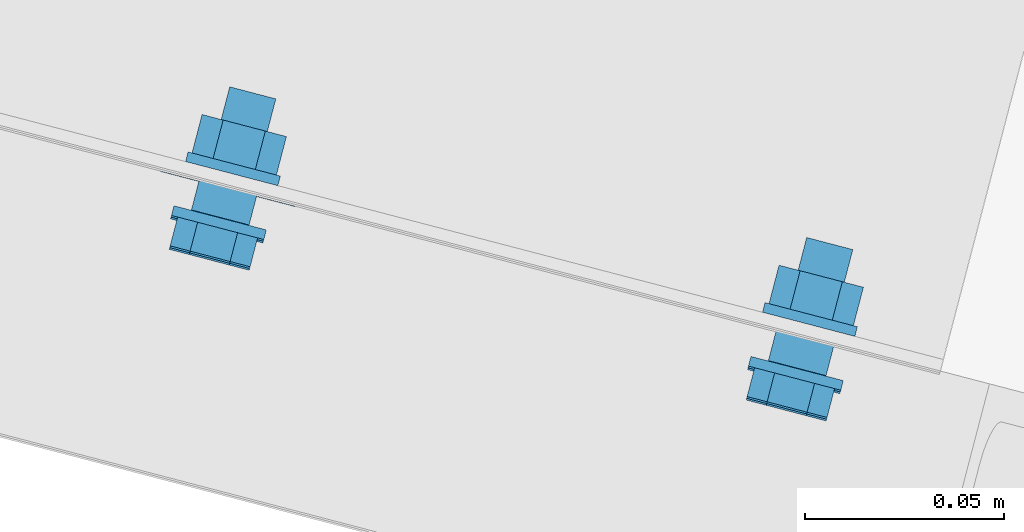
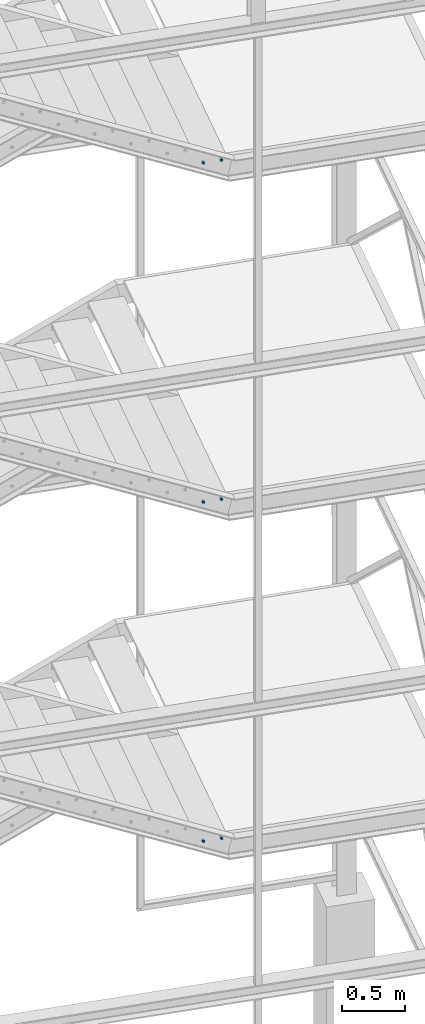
# One storey, part 143 of 169: 6 mechanical fasteners, 3 elements without a shape of their own.
"""IFC2X3 building model written with IfcOpenShell, lengths in millimetres."""

from ifc_helpers import new_model, si_unit, frame, frame_2d, origin_with_axes, origin_2d_with_axis, place, context, subcontext, project, spatial, polyline, circle_curve, parameter, trimmed, segment, composite_curve, circle, outline, extrude, source, transform, mapped, material, type_object, element, aggregate, save


model = new_model("IFC2X3")

# Units and contexts
model_context = context("Model", 3, precision=1e-05, world=origin_with_axes())
body_context = subcontext(model_context, "Body", "Model", "MODEL_VIEW")
ifc_project = project(units=[si_unit("LENGTHUNIT", "METRE", prefix="MILLI"), si_unit("AREAUNIT", "SQUARE_METRE"), si_unit("VOLUMEUNIT", "CUBIC_METRE"), si_unit("MASSUNIT", "GRAM", prefix="KILO"), si_unit("TIMEUNIT", "SECOND"), si_unit("PLANEANGLEUNIT", "RADIAN"), si_unit("SOLIDANGLEUNIT", "STERADIAN"), si_unit("THERMODYNAMICTEMPERATUREUNIT", "DEGREE_CELSIUS"), si_unit("LUMINOUSINTENSITYUNIT", "LUMEN")], contexts=[model_context])

# Site, building, storey
site_placement = place(None, origin_with_axes())
site = spatial("IfcSite", under=ifc_project, at=site_placement, Name="Undefined", CompositionType="ELEMENT")
building_placement = place(site_placement, origin_with_axes())
building = spatial("IfcBuilding", under=site, at=building_placement, Name="Undefined", CompositionType="ELEMENT")
storey_placement = place(building_placement, origin_with_axes())
storey = spatial("IfcBuildingStorey", under=building, at=storey_placement, Name="Undefined", CompositionType="ELEMENT", Elevation=0.0)

# Assembly, mechanical fastener
assembly_1_placement = place(storey_placement, origin_with_axes())
assembly_1 = element("IfcElementAssembly", 1, at=assembly_1_placement, inside=storey, Name="Steel Assembly", AssemblyPlace="NOTDEFINED", PredefinedType="RIGID_FRAME")
ifc_material = material(Name="Undefined")
discrete_accessory_type = type_object("IfcDiscreteAccessoryType", Name="Bolt assembly")
shared_shape_1 = source(origin_with_axes(), body_context, "Body", "SweptSolid", [
    extrude(circle(Radius=7.5, at=origin_2d_with_axis()), frame((0.0, -8.39999975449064, 0.0), z_axis=(0.0, 1.0, 0.0), x_axis=(1.0, 0.0, 0.0)), (0.0, 0.0, 1.0), 8.5),
    extrude(circle(Radius=7.5, at=origin_2d_with_axis()), frame((0.0, -0.100000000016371, 0.0), z_axis=(0.0, 1.0, 0.0), x_axis=(1.0, 0.0, 0.0)), (0.0, 0.0, 1.0), 3.1),
    extrude(outline(polyline([(10.39230484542, 0.0), (5.19615242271, 9.00000000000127), (-5.19615242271, 9.00000000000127), (-10.39230484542, 0.0), (-5.19615242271, -9.00000000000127), (5.19615242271, -9.00000000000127), (10.39230484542, 0.0)])), frame((0.0, -18.4999993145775, 0.0), z_axis=(0.0, 1.0, 0.0), x_axis=(1.0, 0.0, 0.0)), (0.0, 0.0, 1.0), 7.5),
    extrude(circle(Radius=6.0, at=origin_2d_with_axis()), frame((0.0, -10.9999999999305, 0.0), z_axis=(0.0, 1.0, 0.0), x_axis=(1.0, 0.0, 0.0)), (0.0, 0.0, 1.0), 35.0),
    extrude(circle(Radius=12.0, at=origin_2d_with_axis()), frame((0.0, -10.9999999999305, 0.0), z_axis=(0.0, 1.0, 0.0), x_axis=(1.0, 0.0, 0.0)), (0.0, 0.0, 1.0), 2.5),
    extrude(circle(Radius=12.0, at=origin_2d_with_axis()), frame((0.0, 2.99999999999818, 0.0), z_axis=(0.0, 1.0, 0.0), x_axis=(1.0, 0.0, 0.0)), (0.0, 0.0, 1.0), 2.5),
    extrude(outline(polyline([(10.96965511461, 0.0), (5.484827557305, 9.50000000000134), (-5.484827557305, 9.50000000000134), (-10.96965511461, 0.0), (-5.484827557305, -9.50000000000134), (5.484827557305, -9.50000000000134), (10.96965511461, 0.0)])), frame((0.0, 5.50000000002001, 0.0), z_axis=(0.0, 1.0, 0.0), x_axis=(1.0, 0.0, 0.0)), (0.0, 0.0, 1.0), 10.0),
])
mechanical_fastener_1_placement = place(assembly_1_placement, frame((-25143.4624112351, 4979.55012955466, 10700.3215823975), z_axis=(-2.54700353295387e-10, 0.0, -1.0), x_axis=(-0.967546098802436, 0.252694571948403, 0.0)))
mechanical_fastener_1 = element("IfcMechanicalFastener", 2, at=mechanical_fastener_1_placement, type_object=discrete_accessory_type, material=ifc_material, Name="Bolt assembly", NominalDiameter=12.0, NominalLength=35.0, context=body_context, shape_type="MappedRepresentation", body=[
    mapped(shared_shape_1, transform((35.0000000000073, -1.23691279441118e-10, 25.0))),
])

assembly_2_placement = place(storey_placement, origin_with_axes())
assembly_2 = element("IfcElementAssembly", 3, at=assembly_2_placement, inside=storey, Name="Steel Assembly", AssemblyPlace="NOTDEFINED", PredefinedType="RIGID_FRAME")
mechanical_fastener_2_placement = place(assembly_2_placement, frame((-25143.5764886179, 4979.11321458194, 7400.3216133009), z_axis=(-2.54700353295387e-10, 0.0, -1.0), x_axis=(-0.967546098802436, 0.252694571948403, 0.0)))
mechanical_fastener_2 = element("IfcMechanicalFastener", 4, at=mechanical_fastener_2_placement, type_object=discrete_accessory_type, material=ifc_material, Name="Bolt assembly", NominalDiameter=12.0, NominalLength=35.0, context=body_context, shape_type="MappedRepresentation", body=[
    mapped(shared_shape_1, transform((35.0000000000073, -1.23691279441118e-10, 25.0))),
])

assembly_3_placement = place(storey_placement, origin_with_axes())
assembly_3 = element("IfcElementAssembly", 5, at=assembly_3_placement, inside=storey, Name="Steel Assembly", AssemblyPlace="NOTDEFINED", PredefinedType="RIGID_FRAME")
mechanical_fastener_3_placement = place(assembly_3_placement, frame((-25143.6905660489, 4978.67629966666, 4100.3216442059), z_axis=(-2.54700353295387e-10, 0.0, -1.0), x_axis=(-0.967546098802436, 0.252694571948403, 0.0)))
mechanical_fastener_3 = element("IfcMechanicalFastener", 6, at=mechanical_fastener_3_placement, type_object=discrete_accessory_type, material=ifc_material, Name="Bolt assembly", NominalDiameter=12.0, NominalLength=35.0, context=body_context, shape_type="MappedRepresentation", body=[
    mapped(shared_shape_1, transform((35.0000000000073, -1.23691279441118e-10, 25.0))),
])

# Mechanical fastener
shared_shape_2 = source(origin_with_axes(), body_context, "Body", "SweptSolid", [
    extrude(circle(Radius=7.5, at=origin_2d_with_axis()), frame((0.0, -8.39999975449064, 0.0), z_axis=(0.0, 1.0, 0.0), x_axis=(1.0, 0.0, 0.0)), (0.0, 0.0, 1.0), 8.5),
    extrude(outline(composite_curve([segment(polyline([(-10.0, 7.5), (10.0, 7.5)]), True, "CONTINUOUS"), segment(trimmed(circle_curve(frame_2d((10.0, 0.0), x_axis=(0.0, 1.0)), 7.5), [parameter(0.0)], [parameter(3.14159265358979)], False, "PARAMETER"), True, "CONTINUOUS"), segment(polyline([(10.0, -7.5), (-10.0, -7.5)]), True, "CONTINUOUS"), segment(trimmed(circle_curve(frame_2d((-10.0, 0.0), x_axis=(0.0, -1.0)), 7.5), [parameter(0.0)], [parameter(3.14159265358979)], False, "PARAMETER"), True, "DISCONTINUOUS")], self_intersect=False)), frame((0.0, -0.100000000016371, 0.0), z_axis=(0.0, 1.0, 0.0), x_axis=(1.0, 0.0, 0.0)), (0.0, 0.0, 1.0), 3.1),
    extrude(outline(polyline([(10.39230484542, 0.0), (5.19615242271, 9.00000000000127), (-5.19615242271, 9.00000000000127), (-10.39230484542, 0.0), (-5.19615242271, -9.00000000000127), (5.19615242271, -9.00000000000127), (10.39230484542, 0.0)])), frame((0.0, -18.4999993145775, 0.0), z_axis=(0.0, 1.0, 0.0), x_axis=(1.0, 0.0, 0.0)), (0.0, 0.0, 1.0), 7.5),
    extrude(circle(Radius=6.0, at=origin_2d_with_axis()), frame((0.0, -10.9999999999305, 0.0), z_axis=(0.0, 1.0, 0.0), x_axis=(1.0, 0.0, 0.0)), (0.0, 0.0, 1.0), 35.0),
    extrude(circle(Radius=12.0, at=origin_2d_with_axis()), frame((0.0, -10.9999999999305, 0.0), z_axis=(0.0, 1.0, 0.0), x_axis=(1.0, 0.0, 0.0)), (0.0, 0.0, 1.0), 2.5),
    extrude(circle(Radius=12.0, at=origin_2d_with_axis()), frame((0.0, 2.99999999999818, 0.0), z_axis=(0.0, 1.0, 0.0), x_axis=(1.0, 0.0, 0.0)), (0.0, 0.0, 1.0), 2.5),
    extrude(outline(polyline([(10.96965511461, 0.0), (5.484827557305, 9.50000000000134), (-5.484827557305, 9.50000000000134), (-10.96965511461, 0.0), (-5.484827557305, -9.50000000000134), (5.484827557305, -9.50000000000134), (10.96965511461, 0.0)])), frame((0.0, 5.50000000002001, 0.0), z_axis=(0.0, 1.0, 0.0), x_axis=(1.0, 0.0, 0.0)), (0.0, 0.0, 1.0), 10.0),
])
mechanical_fastener_4_placement = place(assembly_1_placement, frame((-25143.4624112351, 4979.55012955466, 10700.3215823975), z_axis=(-2.54700353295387e-10, 0.0, -1.0), x_axis=(-0.967546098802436, 0.252694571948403, 0.0)))
mechanical_fastener_4 = element("IfcMechanicalFastener", 7, at=mechanical_fastener_4_placement, type_object=discrete_accessory_type, material=ifc_material, Name="Bolt assembly", NominalDiameter=12.0, NominalLength=35.0, context=body_context, shape_type="MappedRepresentation", body=[
    mapped(shared_shape_2, transform((185.00000000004, -6.51198206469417e-10, 25.0))),
])

aggregate(assembly_1, [mechanical_fastener_4, mechanical_fastener_1])

shared_shape_3 = source(origin_with_axes(), body_context, "Body", "SweptSolid", [
    extrude(circle(Radius=7.5, at=origin_2d_with_axis()), frame((0.0, -8.39999975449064, 0.0), z_axis=(0.0, 1.0, 0.0), x_axis=(1.0, 0.0, 0.0)), (0.0, 0.0, 1.0), 8.5),
    extrude(outline(composite_curve([segment(polyline([(-10.0, 7.5), (10.0, 7.5)]), True, "CONTINUOUS"), segment(trimmed(circle_curve(frame_2d((10.0, 0.0), x_axis=(0.0, 1.0)), 7.5), [parameter(0.0)], [parameter(3.14159265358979)], False, "PARAMETER"), True, "CONTINUOUS"), segment(polyline([(10.0, -7.5), (-10.0, -7.5)]), True, "CONTINUOUS"), segment(trimmed(circle_curve(frame_2d((-10.0, 0.0), x_axis=(0.0, -1.0)), 7.5), [parameter(0.0)], [parameter(3.14159265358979)], False, "PARAMETER"), True, "DISCONTINUOUS")], self_intersect=False)), frame((0.0, -0.100000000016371, 0.0), z_axis=(0.0, 1.0, 0.0), x_axis=(1.0, 0.0, 0.0)), (0.0, 0.0, 1.0), 3.1),
    extrude(outline(polyline([(10.39230484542, 0.0), (5.19615242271, 9.00000000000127), (-5.19615242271, 9.00000000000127), (-10.39230484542, 0.0), (-5.19615242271, -9.00000000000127), (5.19615242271, -9.00000000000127), (10.39230484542, 0.0)])), frame((0.0, -18.4999993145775, 0.0), z_axis=(0.0, 1.0, 0.0), x_axis=(1.0, 0.0, 0.0)), (0.0, 0.0, 1.0), 7.5),
    extrude(circle(Radius=6.0, at=origin_2d_with_axis()), frame((0.0, -10.9999999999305, 0.0), z_axis=(0.0, 1.0, 0.0), x_axis=(1.0, 0.0, 0.0)), (0.0, 0.0, 1.0), 35.0),
    extrude(circle(Radius=12.0, at=origin_2d_with_axis()), frame((0.0, -10.9999999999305, 0.0), z_axis=(0.0, 1.0, 0.0), x_axis=(1.0, 0.0, 0.0)), (0.0, 0.0, 1.0), 2.5),
    extrude(circle(Radius=12.0, at=origin_2d_with_axis()), frame((0.0, 2.99999999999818, 0.0), z_axis=(0.0, 1.0, 0.0), x_axis=(1.0, 0.0, 0.0)), (0.0, 0.0, 1.0), 2.5),
    extrude(outline(polyline([(10.96965511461, 0.0), (5.484827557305, 9.50000000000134), (-5.484827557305, 9.50000000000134), (-10.96965511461, 0.0), (-5.484827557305, -9.50000000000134), (5.484827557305, -9.50000000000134), (10.96965511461, 0.0)])), frame((0.0, 5.50000000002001, 0.0), z_axis=(0.0, 1.0, 0.0), x_axis=(1.0, 0.0, 0.0)), (0.0, 0.0, 1.0), 10.0),
])
mechanical_fastener_5_placement = place(assembly_2_placement, frame((-25143.5764886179, 4979.11321458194, 7400.3216133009), z_axis=(-2.54700353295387e-10, 0.0, -1.0), x_axis=(-0.967546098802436, 0.252694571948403, 0.0)))
mechanical_fastener_5 = element("IfcMechanicalFastener", 8, at=mechanical_fastener_5_placement, type_object=discrete_accessory_type, material=ifc_material, Name="Bolt assembly", NominalDiameter=12.0, NominalLength=35.0, context=body_context, shape_type="MappedRepresentation", body=[
    mapped(shared_shape_3, transform((185.00000000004, -6.51198206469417e-10, 25.0))),
])

aggregate(assembly_2, [mechanical_fastener_5, mechanical_fastener_2])

shared_shape_4 = source(origin_with_axes(), body_context, "Body", "SweptSolid", [
    extrude(circle(Radius=7.5, at=origin_2d_with_axis()), frame((0.0, -8.39999975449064, 0.0), z_axis=(0.0, 1.0, 0.0), x_axis=(1.0, 0.0, 0.0)), (0.0, 0.0, 1.0), 8.5),
    extrude(outline(composite_curve([segment(polyline([(-10.0, 7.5), (10.0, 7.5)]), True, "CONTINUOUS"), segment(trimmed(circle_curve(frame_2d((10.0, 0.0), x_axis=(0.0, 1.0)), 7.5), [parameter(0.0)], [parameter(3.14159265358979)], False, "PARAMETER"), True, "CONTINUOUS"), segment(polyline([(10.0, -7.5), (-10.0, -7.5)]), True, "CONTINUOUS"), segment(trimmed(circle_curve(frame_2d((-10.0, 0.0), x_axis=(0.0, -1.0)), 7.5), [parameter(0.0)], [parameter(3.14159265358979)], False, "PARAMETER"), True, "DISCONTINUOUS")], self_intersect=False)), frame((0.0, -0.100000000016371, 0.0), z_axis=(0.0, 1.0, 0.0), x_axis=(1.0, 0.0, 0.0)), (0.0, 0.0, 1.0), 3.1),
    extrude(outline(polyline([(10.39230484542, 0.0), (5.19615242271, 9.00000000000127), (-5.19615242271, 9.00000000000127), (-10.39230484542, 0.0), (-5.19615242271, -9.00000000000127), (5.19615242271, -9.00000000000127), (10.39230484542, 0.0)])), frame((0.0, -18.4999993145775, 0.0), z_axis=(0.0, 1.0, 0.0), x_axis=(1.0, 0.0, 0.0)), (0.0, 0.0, 1.0), 7.5),
    extrude(circle(Radius=6.0, at=origin_2d_with_axis()), frame((0.0, -10.9999999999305, 0.0), z_axis=(0.0, 1.0, 0.0), x_axis=(1.0, 0.0, 0.0)), (0.0, 0.0, 1.0), 35.0),
    extrude(circle(Radius=12.0, at=origin_2d_with_axis()), frame((0.0, -10.9999999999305, 0.0), z_axis=(0.0, 1.0, 0.0), x_axis=(1.0, 0.0, 0.0)), (0.0, 0.0, 1.0), 2.5),
    extrude(circle(Radius=12.0, at=origin_2d_with_axis()), frame((0.0, 2.99999999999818, 0.0), z_axis=(0.0, 1.0, 0.0), x_axis=(1.0, 0.0, 0.0)), (0.0, 0.0, 1.0), 2.5),
    extrude(outline(polyline([(10.96965511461, 0.0), (5.484827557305, 9.50000000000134), (-5.484827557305, 9.50000000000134), (-10.96965511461, 0.0), (-5.484827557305, -9.50000000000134), (5.484827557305, -9.50000000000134), (10.96965511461, 0.0)])), frame((0.0, 5.50000000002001, 0.0), z_axis=(0.0, 1.0, 0.0), x_axis=(1.0, 0.0, 0.0)), (0.0, 0.0, 1.0), 10.0),
])
mechanical_fastener_6_placement = place(assembly_3_placement, frame((-25143.6905660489, 4978.67629966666, 4100.3216442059), z_axis=(-2.54700353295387e-10, 0.0, -1.0), x_axis=(-0.967546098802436, 0.252694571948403, 0.0)))
mechanical_fastener_6 = element("IfcMechanicalFastener", 9, at=mechanical_fastener_6_placement, type_object=discrete_accessory_type, material=ifc_material, Name="Bolt assembly", NominalDiameter=12.0, NominalLength=35.0, context=body_context, shape_type="MappedRepresentation", body=[
    mapped(shared_shape_4, transform((185.00000000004, -6.51198206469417e-10, 25.0))),
])

aggregate(assembly_3, [mechanical_fastener_6, mechanical_fastener_3])

save(model, "model.ifc")
